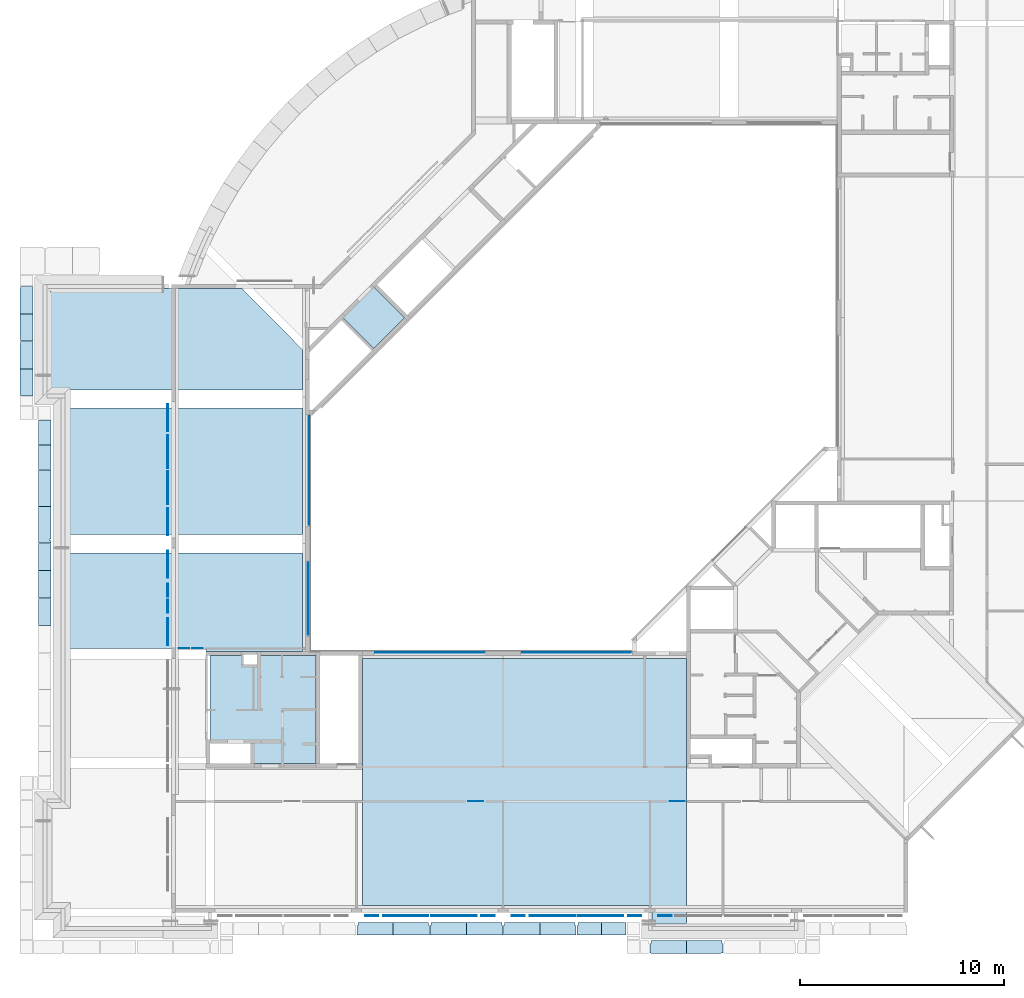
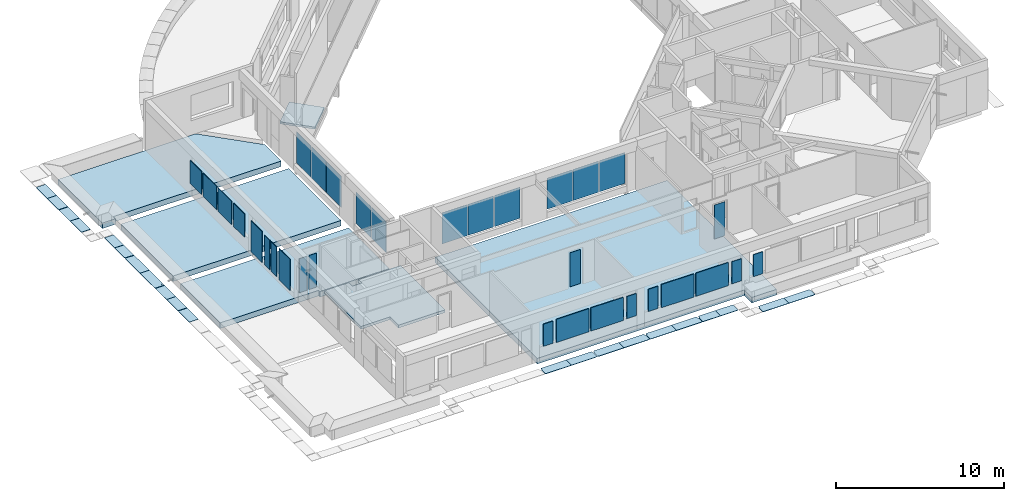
# One storey, part 3 of 38: 32 plates, 27 slabs.
"""IFC4X3_ADD2 building model written with IfcOpenShell, lengths in millimetres."""

from ifc_helpers import new_model, si_unit, direction, frame, frame_2d, origin_with_axes, origin_2d_with_axis, place, context, subcontext, project, spatial, polyline, rectangle, outline, extrude, source, transform, mapped, material, type_object, element, save


model = new_model("IFC4X3_ADD2")

# Units and contexts
model_context = context("Model", 3, precision=1e-05, world=origin_with_axes(), true_north=direction((0.0, 1.0)))
body_context = subcontext(model_context, "Body", "Model", "MODEL_VIEW")
ifc_project = project(units=[si_unit("LENGTHUNIT", "METRE", prefix="MILLI"), si_unit("AREAUNIT", "SQUARE_METRE"), si_unit("VOLUMEUNIT", "CUBIC_METRE"), si_unit("PLANEANGLEUNIT", "RADIAN"), si_unit("TIMEUNIT", "SECOND"), si_unit("MASSUNIT", "GRAM")], contexts=[model_context])

# Site, building, storey
site_placement = place(None, origin_with_axes())
site = spatial("IfcSite", under=ifc_project, at=site_placement, Name="Site", CompositionType="ELEMENT")
building_placement = place(site_placement, origin_with_axes())
building = spatial("IfcBuilding", under=site, at=building_placement, Name="IFC Building Story")
storey_placement = place(building_placement, frame((0.0, 0.0, 10800.0), z_axis=(0.0, 0.0, 1.0), x_axis=(1.0, 0.0, 0.0)))
storey = spatial("IfcBuildingStorey", under=building, at=storey_placement, Name="030", Elevation=10800.0)

# Slabs
ifc_material_1 = material(Name="BB_Beton_Bestaand")
slab_type_1 = type_object("IfcSlabType", Name="BB_Beton_Bestaand 200", PredefinedType="FLOOR", material=ifc_material_1)
slab_1_placement = place(storey_placement, frame((-43500.00000000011, 12500.00406588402, -280.0), z_axis=(0.0, 0.0, 1.0), x_axis=(0.0, -1.0, 0.0)))
element("IfcSlab", 1, at=slab_1_placement, inside=storey, type_object=slab_type_1, Name="Floor:BB_XX_Vloer uit beton, 200 mm", ObjectType="Floor:BB_XX_Vloer uit beton, 200 mm", PredefinedType="FLOOR", context=body_context, shape_type="SweptSolid", body=[
    extrude(outline(polyline([(3294.002439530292, -231.9999999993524), (2294.002439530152, -231.9999999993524), (2294.002439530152, -2232.000000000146), (-2006.001626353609, -2232.000000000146), (-2006.001626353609, -582.00000000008), (-1576.001626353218, -582.00000000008), (-1576.001626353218, 78.0), (-2006.001626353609, 78.0), (-2006.001626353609, 2967.999999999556), (3294.002439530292, 2967.999999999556), (3294.002439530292, -231.9999999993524)])), frame((2006.001626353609, 2232.000000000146, 0.0), z_axis=(0.0, 0.0, 1.0), x_axis=(1.0, 0.0, 0.0)), (0.0, 0.0, 1.0), 200.0),
])
slab_type_2 = type_object("IfcSlabType", Name="BB_Beton_Bestaand 400", PredefinedType="FLOOR", material=ifc_material_1)
slab_2_placement = place(storey_placement, frame((-50454.99999999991, 12700.00406588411, -600.0), z_axis=(0.0, 0.0, 1.0), x_axis=(1.0, 0.0, 0.0)))
element("IfcSlab", 2, at=slab_2_placement, inside=storey, type_object=slab_type_2, Name="Floor:BB_XX_Vloer welfsels, 400 mm", ObjectType="Floor:BB_XX_Vloer welfsels, 400 mm", PredefinedType="FLOOR", context=body_context, shape_type="SweptSolid", body=[
    extrude(outline(polyline([(666.6666666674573, -1666.663956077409), (666.6666666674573, -1516.668021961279), (-6088.333333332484, -1516.668021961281), (-6088.333333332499, 3183.33197803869), (5421.666666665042, 3183.33197803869), (5421.666666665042, -1666.663956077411), (666.6666666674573, -1666.663956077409)])), frame((6088.333333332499, 1666.663956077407, 0.0), z_axis=(0.0, 0.0, 1.0), x_axis=(1.0, 0.0, 0.0)), (0.0, 0.0, 1.0), 400.0),
])
slab_3_placement = place(storey_placement, frame((-50454.99999999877, 18450.00000000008, -600.0), z_axis=(0.0, 0.0, 1.0), x_axis=(1.0, 0.0, 0.0)))
element("IfcSlab", 3, at=slab_3_placement, inside=storey, type_object=slab_type_2, Name="Floor:BB_XX_Vloer welfsels, 400 mm", ObjectType="Floor:BB_XX_Vloer welfsels, 400 mm", PredefinedType="FLOOR", context=body_context, shape_type="SweptSolid", body=[
    extrude(rectangle(XDim=11509.99999999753, YDim=6205.00000000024, at=origin_2d_with_axis()), frame((5754.999999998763, 3102.50000000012, 0.0), z_axis=(0.0, 0.0, 1.0), x_axis=(1.0, 0.0, 0.0)), (0.0, 0.0, 1.0), 400.0),
])
slab_4_placement = place(storey_placement, frame((-51355.0, 25295.00000000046, -600.0), z_axis=(0.0, 0.0, 1.0), x_axis=(1.0, 0.0, 0.0)))
element("IfcSlab", 4, at=slab_4_placement, inside=storey, type_object=slab_type_2, Name="Floor:BB_XX_Vloer welfsels, 400 mm", ObjectType="Floor:BB_XX_Vloer welfsels, 400 mm", PredefinedType="FLOOR", context=body_context, shape_type="SweptSolid", body=[
    extrude(outline(polyline([(-4249.608897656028, -1629.5903296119), (-4249.608897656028, -1889.59032961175), (-5149.608897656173, -1889.590329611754), (-5149.608897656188, 3350.409670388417), (4277.653385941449, 3350.409670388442), (7260.391102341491, 337.5419776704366), (7260.391102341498, -1629.5903296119), (-4249.608897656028, -1629.5903296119)])), frame((5149.608897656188, 1889.590329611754, 0.0), z_axis=(0.0, 0.0, 1.0), x_axis=(1.0, 0.0, 0.0)), (0.0, 0.0, 1.0), 400.0),
])
slab_5_placement = place(storey_placement, frame((-36000.00000000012, -655.0000000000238, -600.0), z_axis=(0.0, 0.0, 1.0), x_axis=(1.0, 0.0, 0.0)))
element("IfcSlab", 5, at=slab_5_placement, inside=storey, type_object=slab_type_2, Name="Floor:BB_XX_Vloer welfsels, 400 mm", ObjectType="Floor:BB_XX_Vloer welfsels, 400 mm", PredefinedType="FLOOR", context=body_context, shape_type="SweptSolid", body=[
    extrude(outline(polyline([(4163.333333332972, -4636.668021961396), (4163.333333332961, -3736.668021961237), (-10031.6666666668, -3736.668021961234), (-10031.66666666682, 8373.336043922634), (5868.333333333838, 8373.336043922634), (5868.333333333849, -4636.668021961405), (4163.333333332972, -4636.668021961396)])), frame((10031.66666666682, 4636.668021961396, 0.0), z_axis=(0.0, 0.0, 1.0), x_axis=(1.0, 0.0, 0.0)), (0.0, 0.0, 1.0), 400.0),
])

# Plates
ifc_material_2 = material(Name="BB_Glas")
shared_shape_1 = source(origin_with_axes(), body_context, "Body", "SweptSolid", [
    extrude(rectangle(XDim=1602.000000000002, YDim=652.000000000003, at=frame_2d((0.0, 0.0), x_axis=(0.0, 1.0))), frame((0.0, 0.0, -44.0), z_axis=(0.0, 0.0, 1.0), x_axis=(1.0, 0.0, 0.0)), (0.0, 0.0, 1.0), 44.0),
])
for number, where, z_axis, x_axis in (
    (6, (-28356.0, -287.499999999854, 1765.0), (0.0, -1.0, 0.0), (1.0, 0.0, 0.0)),
    (7, (-22644.0, -287.499999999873, 1765.0), (0.0, -1.0, 0.0), (1.0, 0.0, 0.0)),
    (8, (-35556.0, -287.499999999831, 1765.0), (0.0, -1.0, 0.0), (1.0, 0.0, 0.0)),
    (9, (-29844.0, -287.49999999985, 1765.0), (0.0, -1.0, 0.0), (1.0, 0.0, 0.0)),
    (10, (-21156.0, -287.499999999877, 1765.0), (0.0, -1.0, 0.0), (1.0, 0.0, 0.0)),
):
    element("IfcPlate", number, at=place(storey_placement, frame(where, z_axis=z_axis, x_axis=x_axis)), inside=storey, material=ifc_material_2, Name="BB_07.06_Buitenbeglazing, rechthoekig_GMO:07.06.72#01_Drievoudige beglazing, 44 mm, A/A*/A", ObjectType="BB_07.06_Buitenbeglazing, rechthoekig_GMO:07.06.72#01_Drievoudige beglazing, 44 mm, A/A*/A", PredefinedType="USERDEFINED", context=body_context, shape_type="MappedRepresentation", body=[
        mapped(shared_shape_1, transform((0.0, 0.0, 0.0))),
    ])
shared_shape_2 = source(origin_with_axes(), body_context, "Body", "SweptSolid", [
    extrude(rectangle(XDim=2222.0, YDim=1680.000000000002, at=origin_2d_with_axis()), frame((0.0, 0.0, -44.0), z_axis=(0.0, 0.0, 1.0), x_axis=(1.0, 0.0, 0.0)), (0.0, 0.0, 1.0), 44.0),
])
for number, where, z_axis, x_axis in (
    (11, (-26681.0, -287.499999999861, 1765.0), (0.0, -1.0, 0.0), (1.0, 0.0, 0.0)),
    (12, (-24319.0, -287.499999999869, 1765.0), (0.0, -1.0, 0.0), (1.0, 0.0, 0.0)),
    (13, (-33881.0, -287.499999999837, 1765.0), (0.0, -1.0, 0.0), (1.0, 0.0, 0.0)),
    (14, (-31519.0, -287.499999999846, 1765.0), (0.0, -1.0, 0.0), (1.0, 0.0, 0.0)),
):
    element("IfcPlate", number, at=place(storey_placement, frame(where, z_axis=z_axis, x_axis=x_axis)), inside=storey, material=ifc_material_2, Name="BB_07.06_Buitenbeglazing, rechthoekig_GMO:07.06.72#01_Drievoudige beglazing, 44 mm, A/A*/A", ObjectType="BB_07.06_Buitenbeglazing, rechthoekig_GMO:07.06.72#01_Drievoudige beglazing, 44 mm, A/A*/A", PredefinedType="USERDEFINED", context=body_context, shape_type="MappedRepresentation", body=[
        mapped(shared_shape_2, transform((0.0, 0.0, 0.0))),
    ])
shared_shape_3 = source(origin_with_axes(), body_context, "Body", "SweptSolid", [
    extrude(rectangle(XDim=2256.0, YDim=1736.000000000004, at=frame_2d((0.0, 0.0), x_axis=(0.0, 1.0))), frame((0.0, 0.0, -17.0), z_axis=(0.0, 0.0, 1.0), x_axis=(1.0, 0.0, 0.0)), (0.0, 0.0, 1.0), 17.0),
])
for number, where, z_axis, x_axis in (
    (15, (-25500.0, 12671.504065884, 1475.0), (0.0, 1.0, 0.0), (-1.0, 0.0, 0.0)),
    (16, (-23700.0, 12671.504065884, 1475.0), (0.0, 1.0, 0.0), (-1.0, 0.0, 0.0)),
    (17, (-32700.0, 12671.504065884, 1475.0), (0.0, 1.0, 0.0), (-1.0, 0.0, 0.0)),
    (18, (-30900.0, 12671.504065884, 1475.0), (0.0, 1.0, 0.0), (-1.0, 0.0, 0.0)),
    (19, (-38628.5000000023, 21600.0, 1475.0), (1.0, 0.0, 0.0), (0.0, 1.0, 0.0)),
    (20, (-38628.5000000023, 19800.0, 1475.0), (1.0, 0.0, 0.0), (0.0, 1.0, 0.0)),
    (21, (-27300.0, 12671.504065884, 1475.0), (0.0, 1.0, 0.0), (-1.0, 0.0, 0.0)),
    (22, (-34500.0, 12671.504065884, 1475.0), (0.0, 1.0, 0.0), (-1.0, 0.0, 0.0)),
    (23, (-38628.5000000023, 23400.0, 1475.0), (1.0, 0.0, 0.0), (0.0, 1.0, 0.0)),
    (24, (-38679.0, 16200.0, 1475.0), (1.0, 0.0, 0.0), (0.0, 1.0, 0.0)),
    (25, (-38679.0, 14400.0, 1475.0), (1.0, 0.0, 0.0), (0.0, 1.0, 0.0)),
):
    element("IfcPlate", number, at=place(storey_placement, frame(where, z_axis=z_axis, x_axis=x_axis)), inside=storey, material=ifc_material_2, Name="BB_10.10_Binnenbeglazing, rechthoekig_GMO:10.10.41#02_Enkelvoudige beglazing, 2B2, EI30, 40dB", ObjectType="BB_10.10_Binnenbeglazing, rechthoekig_GMO:10.10.41#02_Enkelvoudige beglazing, 2B2, EI30, 40dB", PredefinedType="USERDEFINED", context=body_context, shape_type="MappedRepresentation", body=[
        mapped(shared_shape_3, transform((0.0, 0.0, 0.0))),
    ])
shared_shape_4 = source(origin_with_axes(), body_context, "Body", "SweptSolid", [
    extrude(rectangle(XDim=1680.000000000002, YDim=1320.000000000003, at=frame_2d((0.0, 0.0), x_axis=(0.0, 1.0))), frame((0.0, 0.0, -44.0), z_axis=(0.0, 0.0, 1.0), x_axis=(1.0, 0.0, 0.0)), (0.0, 0.0, 1.0), 44.0),
])
for number, where, z_axis, x_axis in (
    (26, (-45587.4999999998, 24190.0, 1765.0), (-1.0, 0.0, 0.0), (0.0, -1.0, 0.0)),
    (27, (-45587.4999999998, 19070.0, 1765.0), (-1.0, 0.0, 0.0), (0.0, -1.0, 0.0)),
):
    element("IfcPlate", number, at=place(storey_placement, frame(where, z_axis=z_axis, x_axis=x_axis)), inside=storey, material=ifc_material_2, Name="BB_07.06_Buitenbeglazing, rechthoekig_GMO:07.06.72#01_Drievoudige beglazing, 44 mm, A/A*/A", ObjectType="BB_07.06_Buitenbeglazing, rechthoekig_GMO:07.06.72#01_Drievoudige beglazing, 44 mm, A/A*/A", PredefinedType="USERDEFINED", context=body_context, shape_type="MappedRepresentation", body=[
        mapped(shared_shape_4, transform((0.0, 0.0, 0.0))),
    ])
shared_shape_5 = source(origin_with_axes(), body_context, "Body", "SweptSolid", [
    extrude(rectangle(XDim=1680.000000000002, YDim=1630.000000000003, at=frame_2d((0.0, 0.0), x_axis=(0.0, 1.0))), frame((0.0, 0.0, -44.0), z_axis=(0.0, 0.0, 1.0), x_axis=(1.0, 0.0, 0.0)), (0.0, 0.0, 1.0), 44.0),
])
for number, where, z_axis, x_axis in (
    (28, (-45587.4999999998, 22515.0, 1765.0), (-1.0, 0.0, 0.0), (0.0, -1.0, 0.0)),
    (29, (-45587.4999999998, 20745.0, 1765.0), (-1.0, 0.0, 0.0), (0.0, -1.0, 0.0)),
):
    element("IfcPlate", number, at=place(storey_placement, frame(where, z_axis=z_axis, x_axis=x_axis)), inside=storey, material=ifc_material_2, Name="BB_07.06_Buitenbeglazing, rechthoekig_GMO:07.06.72#01_Drievoudige beglazing, 44 mm, A/A*/A", ObjectType="BB_07.06_Buitenbeglazing, rechthoekig_GMO:07.06.72#01_Drievoudige beglazing, 44 mm, A/A*/A", PredefinedType="USERDEFINED", context=body_context, shape_type="MappedRepresentation", body=[
        mapped(shared_shape_5, transform((0.0, 0.0, 0.0))),
    ])
shared_shape_6 = source(origin_with_axes(), body_context, "Body", "SweptSolid", [
    extrude(rectangle(XDim=2260.0, YDim=1320.000000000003, at=frame_2d((0.0, 0.0), x_axis=(0.0, 1.0))), frame((0.0, 0.0, -44.0), z_axis=(0.0, 0.0, 1.0), x_axis=(1.0, 0.0, 0.0)), (0.0, 0.0, 1.0), 44.0),
])
for number, where, z_axis, x_axis in (
    (30, (-45587.4999999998, 16990.0, 1475.0), (-1.0, 0.0, 0.0), (0.0, -1.0, 0.0)),
    (31, (-45587.4999999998, 13670.0, 1475.0), (-1.0, 0.0, 0.0), (0.0, -1.0, 0.0)),
):
    element("IfcPlate", number, at=place(storey_placement, frame(where, z_axis=z_axis, x_axis=x_axis)), inside=storey, material=ifc_material_2, Name="BB_07.06_Buitenbeglazing, rechthoekig_GMO:07.06.72#03_Drievoudige beglazing, 44 mm, A/A*/2B2, deuren terrassen", ObjectType="BB_07.06_Buitenbeglazing, rechthoekig_GMO:07.06.72#03_Drievoudige beglazing, 44 mm, A/A*/2B2, deuren terrassen", PredefinedType="USERDEFINED", context=body_context, shape_type="MappedRepresentation", body=[
        mapped(shared_shape_6, transform((0.0, 0.0, 0.0))),
    ])
shared_shape_7 = source(origin_with_axes(), body_context, "Body", "SweptSolid", [
    extrude(rectangle(XDim=2124.5, YDim=635.000000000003, at=frame_2d((0.0, 0.0), x_axis=(0.0, 1.0))), frame((0.0, 0.0, -44.0), z_axis=(0.0, 0.0, 1.0), x_axis=(1.0, 0.0, 0.0)), (0.0, 0.0, 1.0), 44.0),
])
for number, where, z_axis, x_axis in (
    (32, (-45587.4999999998, 15721.5, 1452.25), (-1.0, 0.0, 0.0), (0.0, -1.0, 0.0)),
    (33, (-45587.4999999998, 14938.5, 1452.25), (-1.0, 0.0, 0.0), (0.0, -1.0, 0.0)),
):
    element("IfcPlate", number, at=place(storey_placement, frame(where, z_axis=z_axis, x_axis=x_axis)), inside=storey, material=ifc_material_2, Name="BB_07.06_Buitenbeglazing, rechthoekig_GMO:07.06.72#03_Drievoudige beglazing, 44 mm, A/A*/2B2, deuren terrassen", ObjectType="BB_07.06_Buitenbeglazing, rechthoekig_GMO:07.06.72#03_Drievoudige beglazing, 44 mm, A/A*/2B2, deuren terrassen", PredefinedType="USERDEFINED", context=body_context, shape_type="MappedRepresentation", body=[
        mapped(shared_shape_7, transform((0.0, 0.0, 0.0))),
    ])
shared_shape_8 = source(origin_with_axes(), body_context, "Body", "SweptSolid", [
    extrude(rectangle(XDim=2465.0, YDim=530.500000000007, at=frame_2d((0.0, 0.0), x_axis=(0.0, 1.0))), frame((0.0, 0.0, -20.0), z_axis=(0.0, 0.0, 1.0), x_axis=(1.0, 0.0, 0.0)), (0.0, 0.0, 1.0), 20.0),
])
for number, where, z_axis, x_axis, name in (
    (34, (-44104.2499999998, 12878.0040658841, 1307.500000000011), (0.0, 1.0, 0.0), (-1.0, 0.0, 0.0), "BB_07.06_Buitenbeglazing, rechthoekig_GMO:Enkel gelaagd, 20 mm"),
    (35, (-44765.7499999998, 12878.0040658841, 1307.499999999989), (0.0, 1.0, 0.0), (-1.0, 0.0, 0.0), "BB_07.06_Buitenbeglazing, rechthoekig_GMO:Enkel gelaagd, 20 mm"),
):
    element("IfcPlate", number, at=place(storey_placement, frame(where, z_axis=z_axis, x_axis=x_axis)), inside=storey, material=ifc_material_2, Name=name, ObjectType="BB_07.06_Buitenbeglazing, rechthoekig_GMO:Enkel gelaagd, 20 mm", PredefinedType="USERDEFINED", context=body_context, shape_type="MappedRepresentation", body=[
        mapped(shared_shape_8, transform((0.0, 0.0, 0.0))),
    ])
shared_shape_9 = source(origin_with_axes(), body_context, "Body", "SweptSolid", [
    extrude(rectangle(XDim=2462.0, YDim=732.000000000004, at=frame_2d((0.0, 0.0), x_axis=(0.0, 1.0))), frame((0.0, 0.0, -17.0), z_axis=(0.0, 0.0, 1.0), x_axis=(1.0, 0.0, 0.0)), (0.0, 0.0, 1.0), 17.0),
])
plate_1_placement = place(storey_placement, frame((-30450.0, 5362.0, 1315.0), z_axis=(0.0, 1.0, 0.0), x_axis=(-1.0, 0.0, 0.0)))
element("IfcPlate", 36, at=plate_1_placement, inside=storey, material=ifc_material_2, Name="BB_10.10_Binnenbeglazing, rechthoekig_GMO:10.10.41#01_Enkelvoudige beglazing, 2B2, EI30", ObjectType="BB_10.10_Binnenbeglazing, rechthoekig_GMO:10.10.41#01_Enkelvoudige beglazing, 2B2, EI30", PredefinedType="USERDEFINED", context=body_context, shape_type="MappedRepresentation", body=[
    mapped(shared_shape_9, transform((0.0, 0.0, 0.0))),
])
shared_shape_10 = source(origin_with_axes(), body_context, "Body", "SweptSolid", [
    extrude(rectangle(XDim=2462.0, YDim=732.000000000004, at=frame_2d((0.0, 0.0), x_axis=(0.0, 1.0))), frame((0.0, 0.0, -17.0), z_axis=(0.0, 0.0, 1.0), x_axis=(1.0, 0.0, 0.0)), (0.0, 0.0, 1.0), 17.0),
])
plate_2_placement = place(storey_placement, frame((-20550.0, 5362.0, 1315.0), z_axis=(0.0, 1.0, 0.0), x_axis=(1.0, 0.0, 0.0)))
element("IfcPlate", 37, at=plate_2_placement, inside=storey, material=ifc_material_2, Name="BB_10.10_Binnenbeglazing, rechthoekig_GMO:10.10.41#01_Enkelvoudige beglazing, 2B2, EI30", ObjectType="BB_10.10_Binnenbeglazing, rechthoekig_GMO:10.10.41#01_Enkelvoudige beglazing, 2B2, EI30", PredefinedType="USERDEFINED", context=body_context, shape_type="MappedRepresentation", body=[
    mapped(shared_shape_10, transform((0.0, 0.0, 0.0))),
])

# Slabs
slab_type_3 = type_object("IfcSlabType", Name="BB_Beton_Bestaand 150", PredefinedType="FLOOR", material=ifc_material_1)
slab_6_placement = place(storey_placement, frame((-36975.84103193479, 29105.74255732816, -350.0), z_axis=(0.0, 0.0, 1.0), x_axis=(0.7071067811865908, -0.7071067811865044, 0.0)))
element("IfcSlab", 38, at=slab_6_placement, inside=storey, type_object=slab_type_3, Name="Floor:BB_XX_Vloer uit beton, 150 mm", ObjectType="Floor:BB_XX_Vloer uit beton, 150 mm", PredefinedType="FLOOR", context=body_context, shape_type="SweptSolid", body=[
    extrude(rectangle(XDim=2158.526617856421, YDim=2130.000000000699, at=frame_2d((0.0, 0.0), x_axis=(-1.0, 0.0))), frame((1079.263308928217, 1065.000000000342, 0.0), z_axis=(0.0, 0.0, 1.0), x_axis=(1.0, 0.0, 0.0)), (0.0, 0.0, 1.0), 150.000000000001),
])
ifc_material_3 = material(Name="Steel, Galvanized - looprooster")
slab_type_4 = type_object("IfcSlabType", Name="Steel, Galvanized - looprooster 30", PredefinedType="FLOOR", material=ifc_material_3)
slab_7_placement = place(storey_placement, frame((-52819.998957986, 29279.99796376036, -350.0), z_axis=(0.0, 0.0, 1.0), x_axis=(0.0, -1.0, 0.0)))
element("IfcSlab", 39, at=slab_7_placement, inside=storey, type_object=slab_type_4, Name="Floor:GVH - Looprooster 30 mm", ObjectType="Floor:GVH - Looprooster 30 mm", PredefinedType="FLOOR", context=body_context, shape_type="SweptSolid", body=[
    extrude(outline(polyline([(473.9993333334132, -200.0009733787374), (386.9993333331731, -200.0009733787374), (386.9993333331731, -214.9997933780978), (-860.9986666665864, -214.9997933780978), (-860.9986666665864, 415.0007667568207), (473.9993333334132, 415.0007667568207), (473.9993333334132, -200.0009733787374)])), frame((860.9986666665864, 214.9997933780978, 0.0), z_axis=(0.0, 0.0, 1.0), x_axis=(1.0, 0.0, 0.0)), (0.0, 0.0, 1.0), 29.99999999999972),
])
slab_8_placement = place(storey_placement, frame((-51919.99839785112, 22852.4979637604, -350.0), z_axis=(0.0, 0.0, 1.0), x_axis=(0.0, -1.0, 0.0)))
element("IfcSlab", 40, at=slab_8_placement, inside=storey, type_object=slab_type_4, Name="Floor:GVH - Looprooster 30 mm", ObjectType="Floor:GVH - Looprooster 30 mm", PredefinedType="FLOOR", context=body_context, shape_type="SweptSolid", body=[
    extrude(outline(polyline([(419.8325999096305, -200.001525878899), (367.8328001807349, -200.001525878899), (367.8328001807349, -214.9992370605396), (-787.6654000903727, -214.9992370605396), (-787.6654000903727, 415.0007629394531), (419.8325999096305, 415.0007629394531), (419.8325999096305, -200.001525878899)])), frame((787.6654000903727, 214.9992370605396, 0.0), z_axis=(0.0, 0.0, 1.0), x_axis=(1.0, 0.0, 0.0)), (0.0, 0.0, 1.0), 29.99999999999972),
])
slab_9_placement = place(storey_placement, frame((-51919.99839785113, 19829.49796376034, -350.0), z_axis=(0.0, 0.0, 1.0), x_axis=(0.0, -1.0, 0.0)))
element("IfcSlab", 41, at=slab_9_placement, inside=storey, type_object=slab_type_4, Name="Floor:GVH - Looprooster 30 mm", ObjectType="Floor:GVH - Looprooster 30 mm", PredefinedType="FLOOR", context=body_context, shape_type="SweptSolid", body=[
    extrude(outline(polyline([(425.2995599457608, -348.001190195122), (373.2997602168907, -348.001190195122), (373.2997602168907, -362.9989013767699), (-1359.198440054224, -362.9989013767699), (-1359.198440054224, 267.0010986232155), (240.2995599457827, 267.0010986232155), (240.2995599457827, 176.9978943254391), (320.2995599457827, 176.9978943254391), (320.2995599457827, 267.0010986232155), (425.2995599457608, 267.0010986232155), (425.2995599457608, -348.001190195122)])), frame((1359.198440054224, 362.9989013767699, 0.0), z_axis=(0.0, 0.0, 1.0), x_axis=(1.0, 0.0, 0.0)), (0.0, 0.0, 1.0), 29.99999999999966),
])
slab_10_placement = place(storey_placement, frame((-51919.99839785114, 16679.99796376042, -350.0), z_axis=(0.0, 0.0, 1.0), x_axis=(0.0, -1.0, 0.0)))
element("IfcSlab", 42, at=slab_10_placement, inside=storey, type_object=slab_type_4, Name="Floor:GVH - Looprooster 30 mm", ObjectType="Floor:GVH - Looprooster 30 mm", PredefinedType="FLOOR", context=body_context, shape_type="SweptSolid", body=[
    extrude(outline(polyline([(473.9993333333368, -200.0011600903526), (386.9993333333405, -200.0011600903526), (386.9993333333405, -214.9994199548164), (-860.998666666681, -214.9994199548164), (-860.998666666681, 415.000580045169), (473.9993333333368, 415.000580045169), (473.9993333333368, -200.0011600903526)])), frame((860.998666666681, 214.9994199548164, 0.0), z_axis=(0.0, 0.0, 1.0), x_axis=(1.0, 0.0, 0.0)), (0.0, 0.0, 1.0), 29.99999999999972),
])
slab_11_placement = place(storey_placement, frame((-52819.9983978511, 30614.9999637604, -350.0), z_axis=(0.0, 0.0, 1.0), x_axis=(0.0, -1.0, 0.0)))
element("IfcSlab", 43, at=slab_11_placement, inside=storey, type_object=slab_type_4, Name="Floor:GVH - Looprooster 30 mm", ObjectType="Floor:GVH - Looprooster 30 mm", PredefinedType="FLOOR", context=body_context, shape_type="SweptSolid", body=[
    extrude(outline(polyline([(-462.1659351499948, 415.0007629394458), (872.332066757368, 415.0007629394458), (872.332066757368, -214.9992370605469), (-410.1661316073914, -214.9992370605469), (-410.1661316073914, -200.0015258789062), (-462.1659351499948, -200.0015258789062), (-462.1659351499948, 415.0007629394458)])), frame((462.1659351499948, 214.9992370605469, 0.0), z_axis=(0.0, 0.0, 1.0), x_axis=(1.0, 0.0, 0.0)), (0.0, 0.0, 1.0), 29.99999999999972),
])
slab_12_placement = place(storey_placement, frame((-52819.99895798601, 27914.99996376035, -350.0), z_axis=(0.0, 0.0, 1.0), x_axis=(0.0, -1.0, 0.0)))
element("IfcSlab", 44, at=slab_12_placement, inside=storey, type_object=slab_type_4, Name="Floor:GVH - Looprooster 30 mm", ObjectType="Floor:GVH - Looprooster 30 mm", PredefinedType="FLOOR", context=body_context, shape_type="SweptSolid", body=[
    extrude(outline(polyline([(-473.9993333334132, 415.0007667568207), (860.9986666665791, 415.0007667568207), (860.9986666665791, -214.9997933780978), (-386.9993333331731, -214.9997933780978), (-386.9993333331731, -200.0009733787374), (-473.9993333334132, -200.0009733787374), (-473.9993333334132, 415.0007667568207)])), frame((473.9993333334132, 214.9997933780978, 0.0), z_axis=(0.0, 0.0, 1.0), x_axis=(1.0, 0.0, 0.0)), (0.0, 0.0, 1.0), 29.99999999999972),
])
slab_13_placement = place(storey_placement, frame((-52819.99839785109, 26579.4979637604, -350.0), z_axis=(0.0, 0.0, 1.0), x_axis=(0.0, -1.0, 0.0)))
element("IfcSlab", 45, at=slab_13_placement, inside=storey, type_object=slab_type_4, Name="Floor:GVH - Looprooster 30 mm", ObjectType="Floor:GVH - Looprooster 30 mm", PredefinedType="FLOOR", context=body_context, shape_type="SweptSolid", body=[
    extrude(outline(polyline([(462.165933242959, -200.0009733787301), (410.1661335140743, -200.0009733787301), (410.1661335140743, -214.9997933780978), (-872.3320667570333, -214.9997933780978), (-872.3320667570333, 415.0007667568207), (462.165933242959, 415.0007667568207), (462.165933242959, -200.0009733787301)])), frame((872.3320667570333, 214.9997933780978, 0.0), z_axis=(0.0, 0.0, 1.0), x_axis=(1.0, 0.0, 0.0)), (0.0, 0.0, 1.0), 29.99999999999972),
])
slab_14_placement = place(storey_placement, frame((-51919.9983978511, 21614.99996376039, -350.0), z_axis=(0.0, 0.0, 1.0), x_axis=(0.0, -1.0, 0.0)))
element("IfcSlab", 46, at=slab_14_placement, inside=storey, type_object=slab_type_4, Name="Floor:GVH - Looprooster 30 mm", ObjectType="Floor:GVH - Looprooster 30 mm", PredefinedType="FLOOR", context=body_context, shape_type="SweptSolid", body=[
    extrude(outline(polyline([(-612.3339345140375, 415.0007629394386), (1172.668065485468, 415.0007629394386), (1172.668065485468, -214.9992370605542), (-560.3341309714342, -214.9992370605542), (-560.3341309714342, -200.0015258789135), (-612.3339345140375, -200.0015258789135), (-612.3339345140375, 415.0007629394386)])), frame((612.3339345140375, 214.9992370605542, 0.0), z_axis=(0.0, 0.0, 1.0), x_axis=(1.0, 0.0, 0.0)), (0.0, 0.0, 1.0), 29.99999999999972),
])
slab_15_placement = place(storey_placement, frame((-51919.99839785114, 18014.99596376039, -350.0), z_axis=(0.0, 0.0, 1.0), x_axis=(0.0, -1.0, 0.0)))
element("IfcSlab", 47, at=slab_15_placement, inside=storey, type_object=slab_type_4, Name="Floor:GVH - Looprooster 30 mm", ObjectType="Floor:GVH - Looprooster 30 mm", PredefinedType="FLOOR", context=body_context, shape_type="SweptSolid", body=[
    extrude(outline(polyline([(-462.331267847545, 415.000580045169), (872.6667321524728, 415.000580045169), (872.6667321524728, -214.9994199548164), (-410.3354643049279, -214.9994199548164), (-410.3354643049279, -200.0011600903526), (-462.331267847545, -200.0011600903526), (-462.331267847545, 415.000580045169)])), frame((462.331267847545, 214.9994199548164, 0.0), z_axis=(0.0, 0.0, 1.0), x_axis=(1.0, 0.0, 0.0)), (0.0, 0.0, 1.0), 29.99999999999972),
])
slab_16_placement = place(storey_placement, frame((-51919.99797688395, 15314.99596376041, -350.0), z_axis=(0.0, 0.0, 1.0), x_axis=(0.0, -1.0, 0.0)))
element("IfcSlab", 48, at=slab_16_placement, inside=storey, type_object=slab_type_4, Name="Floor:GVH - Looprooster 30 mm", ObjectType="Floor:GVH - Looprooster 30 mm", PredefinedType="FLOOR", context=body_context, shape_type="SweptSolid", body=[
    extrude(outline(polyline([(-473.9966666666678, 415.000580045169), (860.9973333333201, 415.000580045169), (860.9973333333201, -214.9994199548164), (-387.0006666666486, -214.9994199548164), (-387.0006666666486, -200.0011600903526), (-473.9966666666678, -200.0011600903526), (-473.9966666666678, 415.000580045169)])), frame((473.9966666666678, 214.9994199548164, 0.0), z_axis=(0.0, 0.0, 1.0), x_axis=(1.0, 0.0, 0.0)), (0.0, 0.0, 1.0), 29.99999999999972),
])
slab_17_placement = place(storey_placement, frame((-51919.9983978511, 24061.50125884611, -350.0), z_axis=(0.0, 0.0, 1.0), x_axis=(0.0, -1.0, 0.0)))
element("IfcSlab", 49, at=slab_17_placement, inside=storey, type_object=slab_type_4, Name="Floor:GVH - Looprooster 30 mm", ObjectType="Floor:GVH - Looprooster 30 mm", PredefinedType="FLOOR", context=body_context, shape_type="SweptSolid", body=[
    extrude(rectangle(XDim=1207.998000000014, YDim=629.9999999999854, at=frame_2d((0.0, 0.0), x_axis=(-1.0, 0.0))), frame((603.9990000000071, 314.9999999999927, 0.0), z_axis=(0.0, 0.0, 1.0), x_axis=(1.0, 0.0, 0.0)), (0.0, 0.0, 1.0), 29.99999999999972),
])
slab_18_placement = place(storey_placement, frame((-36285.00000000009, -1219.99839785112, -350.0), z_axis=(0.0, 0.0, 1.0), x_axis=(1.0, 0.0, 0.0)))
element("IfcSlab", 50, at=slab_18_placement, inside=storey, type_object=slab_type_4, Name="Floor:GVH - Looprooster 30 mm", ObjectType="Floor:GVH - Looprooster 30 mm", PredefinedType="FLOOR", context=body_context, shape_type="SweptSolid", body=[
    extrude(outline(polyline([(-420.2494637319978, -282.499218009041), (-420.2494637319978, -267.499561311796), (-472.2495000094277, -267.499561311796), (-472.2495000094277, 202.498340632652), (-420.2495362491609, 202.498340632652), (-420.2495362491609, 347.500438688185), (1312.748499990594, 347.500438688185), (1312.748499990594, -282.499218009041), (-420.2494637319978, -282.499218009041)])), frame((472.2495000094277, 282.499218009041, 0.0), z_axis=(0.0, 0.0, 1.0), x_axis=(1.0, 0.0, 0.0)), (0.0, 0.0, 1.0), 29.99999999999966),
])
slab_19_placement = place(storey_placement, frame((-32684.99996376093, -1219.998390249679, -350.0), z_axis=(0.0, 0.0, 1.0), x_axis=(1.0, 0.0, 0.0)))
element("IfcSlab", 51, at=slab_19_placement, inside=storey, type_object=slab_type_4, Name="Floor:GVH - Looprooster 30 mm", ObjectType="Floor:GVH - Looprooster 30 mm", PredefinedType="FLOOR", context=body_context, shape_type="SweptSolid", body=[
    extrude(outline(polyline([(-394.2494999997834, -282.4992180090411), (-394.2494999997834, -267.4995613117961), (-480.7495000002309, -267.4995613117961), (-480.7495000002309, 202.4983406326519), (-428.7495000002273, 202.4983406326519), (-428.7495000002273, 347.5004386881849), (1303.74850000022, 347.5004386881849), (1303.74850000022, -282.4992180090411), (-394.2494999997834, -282.4992180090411)])), frame((480.7495000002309, 282.4992180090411, 0.0), z_axis=(0.0, 0.0, 1.0), x_axis=(1.0, 0.0, 0.0)), (0.0, 0.0, 1.0), 29.99999999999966),
])
slab_20_placement = place(storey_placement, frame((-29085.49996376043, -1219.99839785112, -350.0), z_axis=(0.0, 0.0, 1.0), x_axis=(1.0, 0.0, 0.0)))
element("IfcSlab", 52, at=slab_20_placement, inside=storey, type_object=slab_type_4, Name="Floor:GVH - Looprooster 30 mm", ObjectType="Floor:GVH - Looprooster 30 mm", PredefinedType="FLOOR", context=body_context, shape_type="SweptSolid", body=[
    extrude(outline(polyline([(-420.1244728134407, -282.499218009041), (-420.1244728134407, -267.499561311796), (-472.6244728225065, -267.499561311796), (-472.6244728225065, 202.498340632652), (-420.1245453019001, 202.498340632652), (-420.1245453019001, 347.500438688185), (1312.873490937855, 347.500438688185), (1312.873490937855, -282.499218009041), (-420.1244728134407, -282.499218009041)])), frame((472.6244728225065, 282.499218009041, 0.0), z_axis=(0.0, 0.0, 1.0), x_axis=(1.0, 0.0, 0.0)), (0.0, 0.0, 1.0), 29.99999999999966),
])
slab_21_placement = place(storey_placement, frame((-25484.99996376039, -1219.998397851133, -350.0), z_axis=(0.0, 0.0, 1.0), x_axis=(1.0, 0.0, 0.0)))
element("IfcSlab", 53, at=slab_21_placement, inside=storey, type_object=slab_type_4, Name="Floor:GVH - Looprooster 30 mm", ObjectType="Floor:GVH - Looprooster 30 mm", PredefinedType="FLOOR", context=body_context, shape_type="SweptSolid", body=[
    extrude(outline(polyline([(-275.8744909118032, -282.4992180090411), (-275.8744909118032, -267.4995613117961), (-327.8744909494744, -267.4995613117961), (-327.8744909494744, 202.4983406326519), (-275.8745271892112, 202.4983406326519), (-275.8745271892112, 347.5004386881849), (879.6235090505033, 347.5004386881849), (879.6235090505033, -282.4992180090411), (-275.8744909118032, -282.4992180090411)])), frame((327.8744909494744, 282.4992180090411, 0.0), z_axis=(0.0, 0.0, 1.0), x_axis=(1.0, 0.0, 0.0)), (0.0, 0.0, 1.0), 29.99999999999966),
])
slab_22_placement = place(storey_placement, frame((-34499.49796376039, -1219.99839785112, -350.0), z_axis=(0.0, 0.0, 1.0), x_axis=(1.0, 0.0, 0.0)))
element("IfcSlab", 54, at=slab_22_placement, inside=storey, type_object=slab_type_4, Name="Floor:GVH - Looprooster 30 mm", ObjectType="Floor:GVH - Looprooster 30 mm", PredefinedType="FLOOR", context=body_context, shape_type="SweptSolid", body=[
    extrude(outline(polyline([(394.2495000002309, -267.499561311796), (394.2495000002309, -282.499218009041), (-1303.748499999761, -282.499218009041), (-1303.748499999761, 347.500438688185), (428.7494999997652, 347.500438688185), (428.7494999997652, 202.498340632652), (480.7494999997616, 202.498340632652), (480.7494999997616, -267.499561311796), (394.2495000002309, -267.499561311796)])), frame((1303.748499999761, 282.499218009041, 0.0), z_axis=(0.0, 0.0, 1.0), x_axis=(1.0, 0.0, 0.0)), (0.0, 0.0, 1.0), 29.99999999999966),
])
slab_23_placement = place(storey_placement, frame((-30900.00196376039, -1219.998390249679, -350.0), z_axis=(0.0, 0.0, 1.0), x_axis=(1.0, 0.0, 0.0)))
element("IfcSlab", 55, at=slab_23_placement, inside=storey, type_object=slab_type_4, Name="Floor:GVH - Looprooster 30 mm", ObjectType="Floor:GVH - Looprooster 30 mm", PredefinedType="FLOOR", context=body_context, shape_type="SweptSolid", body=[
    extrude(outline(polyline([(420.2524909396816, -267.4995613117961), (420.2524909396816, -282.4992180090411), (-1312.749509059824, -282.4992180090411), (-1312.749509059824, 347.5004386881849), (420.2485271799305, 347.5004386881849), (420.2485271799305, 202.4983406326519), (472.2484909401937, 202.4983406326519), (472.2484909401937, -267.4995613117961), (420.2524909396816, -267.4995613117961)])), frame((1312.749509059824, 282.4992180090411, 0.0), z_axis=(0.0, 0.0, 1.0), x_axis=(1.0, 0.0, 0.0)), (0.0, 0.0, 1.0), 29.99999999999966),
])
slab_24_placement = place(storey_placement, frame((-27300.00200000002, -1219.99839785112, -350.0), z_axis=(0.0, 0.0, 1.0), x_axis=(1.0, 0.0, 0.0)))
element("IfcSlab", 56, at=slab_24_placement, inside=storey, type_object=slab_type_4, Name="Floor:GVH - Looprooster 30 mm", ObjectType="Floor:GVH - Looprooster 30 mm", PredefinedType="FLOOR", context=body_context, shape_type="SweptSolid", body=[
    extrude(outline(polyline([(420.2505090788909, -267.499561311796), (420.2505090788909, -282.499218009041), (-1312.751527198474, -282.499218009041), (-1312.751527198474, 347.500438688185), (420.250509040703, 347.500438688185), (420.250509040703, 202.498340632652), (472.2505090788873, 202.498340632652), (472.2505090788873, -267.499561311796), (420.2505090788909, -267.499561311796)])), frame((1312.751527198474, 282.499218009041, 0.0), z_axis=(0.0, 0.0, 1.0), x_axis=(1.0, 0.0, 0.0)), (0.0, 0.0, 1.0), 29.99999999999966),
])
slab_25_placement = place(storey_placement, frame((-24276.49810681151, -1219.998397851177, -350.0), z_axis=(0.0, 0.0, 1.0), x_axis=(1.0, 0.0, 0.0)))
element("IfcSlab", 57, at=slab_25_placement, inside=storey, type_object=slab_type_4, Name="Floor:GVH - Looprooster 30 mm", ObjectType="Floor:GVH - Looprooster 30 mm", PredefinedType="FLOOR", context=body_context, shape_type="SweptSolid", body=[
    extrude(rectangle(XDim=1207.998000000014, YDim=629.9996566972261, at=origin_2d_with_axis()), frame((603.9990000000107, 314.9998283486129, 0.0), z_axis=(0.0, 0.0, 1.0), x_axis=(1.0, 0.0, 0.0)), (0.0, 0.0, 1.0), 29.99999999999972),
])
slab_26_placement = place(storey_placement, frame((-21884.99996372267, -2119.998390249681, -350.0), z_axis=(0.0, 0.0, 1.0), x_axis=(1.0, 0.0, 0.0)))
element("IfcSlab", 58, at=slab_26_placement, inside=storey, type_object=slab_type_4, Name="Floor:GVH - Looprooster 30 mm", ObjectType="Floor:GVH - Looprooster 30 mm", PredefinedType="FLOOR", context=body_context, shape_type="SweptSolid", body=[
    extrude(outline(polyline([(-419.9994728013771, -282.4992180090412), (-419.9994728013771, -267.4995613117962), (-471.9994728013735, -267.4995613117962), (-471.9994728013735, 202.4983406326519), (-420.4995453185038, 202.4983406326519), (-420.4995453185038, 347.5004386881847), (1312.498490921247, 347.5004386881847), (1312.498490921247, -282.4992180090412), (-419.9994728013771, -282.4992180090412)])), frame((471.9994728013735, 282.4992180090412, 0.0), z_axis=(0.0, 0.0, 1.0), x_axis=(1.0, 0.0, 0.0)), (0.0, 0.0, 1.0), 29.99999999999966),
])
slab_27_placement = place(storey_placement, frame((-20099.99796376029, -2119.998390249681, -350.0), z_axis=(0.0, 0.0, 1.0), x_axis=(1.0, 0.0, 0.0)))
element("IfcSlab", 59, at=slab_27_placement, inside=storey, type_object=slab_type_4, Name="Floor:GVH - Looprooster 30 mm", ObjectType="Floor:GVH - Looprooster 30 mm", PredefinedType="FLOOR", context=body_context, shape_type="SweptSolid", body=[
    extrude(outline(polyline([(393.9995000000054, -267.499561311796), (393.9995000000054, -282.499218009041), (-1303.998499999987, -282.499218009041), (-1303.998499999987, 347.500438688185), (428.9994999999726, 347.500438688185), (428.9994999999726, 202.498340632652), (480.9995000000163, 202.498340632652), (480.9995000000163, -267.499561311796), (393.9995000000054, -267.499561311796)])), frame((1303.998499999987, 282.499218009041, 0.0), z_axis=(0.0, 0.0, 1.0), x_axis=(1.0, 0.0, 0.0)), (0.0, 0.0, 1.0), 29.99999999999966),
])

save(model, "model.ifc")
